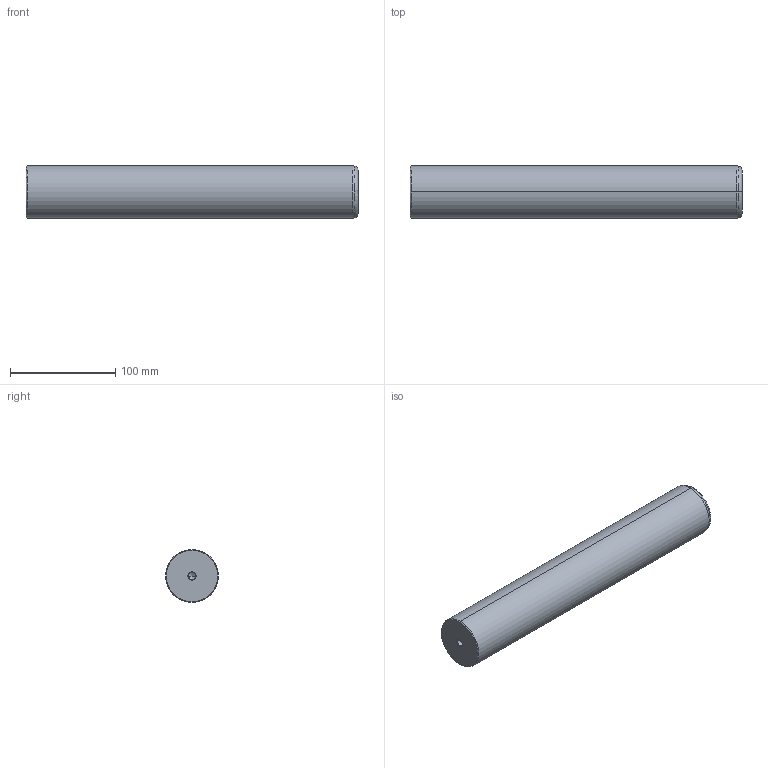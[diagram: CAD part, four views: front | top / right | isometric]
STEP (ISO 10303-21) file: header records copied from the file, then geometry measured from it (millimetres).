
FILE_DESCRIPTION(('CATIA V5 STEP Exchange'),'2;1');
FILE_NAME('C:\Users\Utente\Desktop\IO LAVORO\3D X SITO CF\X SITO\720\720-50x315.stp','2020-12-30T21:39:56+00:00',('none'),('none'),'CATIA Version 5 Release 20 GA (IN-10)','CATIA V5 STEP AP203','none');
FILE_SCHEMA(('CONFIG_CONTROL_DESIGN'));
Length unit declared in the file: millimetre
Products named in the file (1): 720-50x315
Bounding box: 315 x 50 x 50 mm (x, y, z)
Volume: 615956.3 mm3; surface area: 53999.8 mm2
Topology: 1 solids, 1 shells, 22 faces, 62 edges, 40 vertices
Faces by surface type: cone 12, cylinder 6, plane 2, torus 2
Entity records: 806 total; most frequent: CARTESIAN_POINT 229, ORIENTED_EDGE 116, DIRECTION 93, EDGE_CURVE 58, AXIS2_PLACEMENT_3D 54, VERTEX_POINT 40, CIRCLE 31, EDGE_LOOP 24
